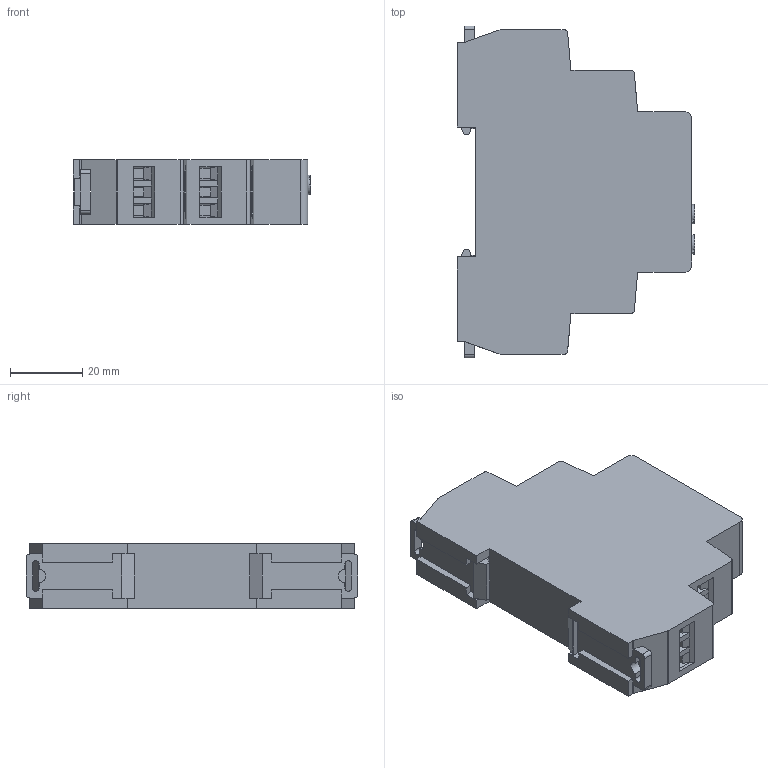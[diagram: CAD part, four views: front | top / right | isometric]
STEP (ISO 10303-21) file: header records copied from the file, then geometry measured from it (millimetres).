
FILE_DESCRIPTION (( 'STEP AP203' ), '1' );
FILE_NAME ('Ðåëå âðåìåíè RT-ZD.STEP', '2021-11-25T20:41:12', ( '' ), ( '' ), 'SwSTEP 2.0', 'SolidWorks 2017', '' );
FILE_SCHEMA (( 'CONFIG_CONTROL_DESIGN' ));
Length unit declared in the file: millimetre
Products named in the file (1): Ðåëå âðåìåíè RT-ZD
Bounding box: 65.8 x 92 x 18 mm (x, y, z)
Volume: 79635.5 mm3; surface area: 18267.5 mm2
Topology: 6 solids, 6 shells, 455 faces, 1195 edges, 784 vertices
Faces by surface type: plane 329, cylinder 112, torus 12, sphere 2
Entity records: 13962 total; most frequent: CARTESIAN_POINT 2459, ORIENTED_EDGE 2382, DIRECTION 2335, EDGE_CURVE 1191, LINE 939, VECTOR 939, VERTEX_POINT 782, AXIS2_PLACEMENT_3D 698
